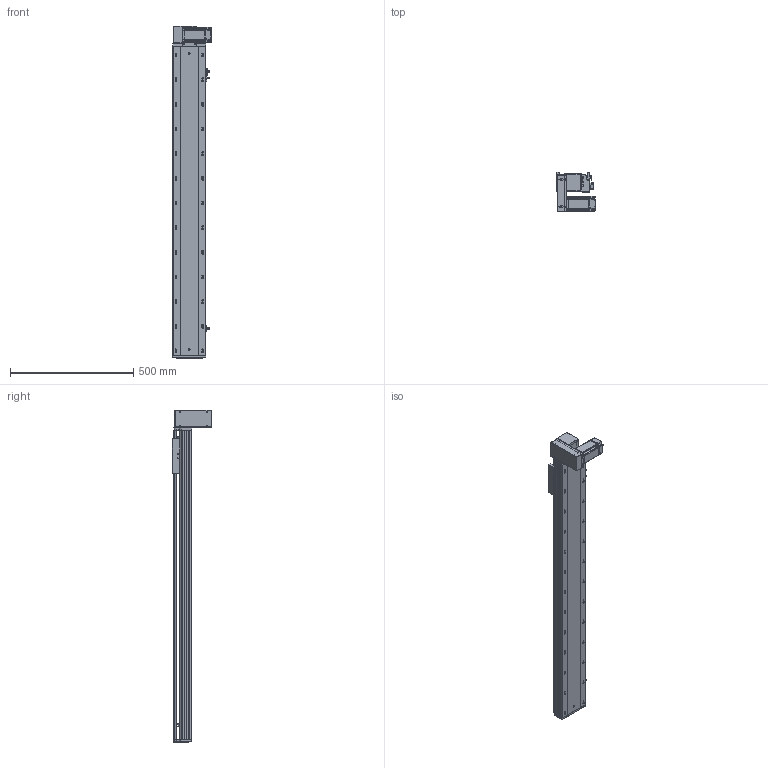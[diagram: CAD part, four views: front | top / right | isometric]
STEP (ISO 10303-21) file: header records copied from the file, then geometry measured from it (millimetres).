
FILE_DESCRIPTION (( 'STEP AP203' ), '1' );
FILE_NAME ('RY140-T-300-DL.SLDASM_1000.step', '2021-03-01T06:06:25', ( '盈信电脑' ), ( '东莞市道滘镇水果街19号' ), 'SwSTEP 2.0', 'SolidWorks 2012', '' );
FILE_SCHEMA (( 'CONFIG_CONTROL_DESIGN' ));
Length unit declared in the file: millimetre
Products named in the file (18): RY140-T翋肮謫裔啣; RY140-T-300-DL.SLDASM_1000; 滅袉蝶18-10; 侂狟400W侜督萇儂; RY120-T主同步轮轴承压盖; RY140-T萇儂欶; RY120-T蹟翐M4; RY120-T肮祭湍揤踡輸1; RY140-T翋肮祭謫盓傅釱; RY140-T萇儂假蚾啣; 15; 覜茼ん672; RY140綴裔啣; RY120-T肮祭湍揤踡輸2; RY120外置感应片(140共用）; RY140肮祭謫臏賑輸; RY140-T-300-DL倰第菁釱_1000; RY140-T-300-DL倰第奻裔啣_1000
Assembly tree (23 placements, depth 3):
  RY140-T-300-DL.SLDASM_1000
    RY140-T-300-DL倰第菁釱_1000
    RY140肮祭謫臏賑輸
    RY140-T-300-DL倰第奻裔啣_1000
    RY140綴裔啣
    覜茼ん672  x3
    RY120外置感应片(140共用）
    RY120-T肮祭湍揤踡輸2
    RY120-T肮祭湍揤踡輸1
    RY140-T翋肮祭謫盓傅釱
    RY140-T萇儂假蚾啣
    侂狟400W侜督萇儂
      15
    RY120-T主同步轮轴承压盖
    RY120-T蹟翐M4  x4
    RY140-T萇儂欶
    滅袉蝶18-10  x2
    RY140-T翋肮謫裔啣
Bounding box: 157 x 158.5 x 1346 mm (x, y, z)
Volume: 3987512 mm3; surface area: 1525927 mm2
Topology: 22 solids, 22 shells, 2782 faces, 7702 edges, 4948 vertices
Faces by surface type: plane 1389, cylinder 1071, cone 222, bspline 100
Entity records: 89096 total; most frequent: CARTESIAN_POINT 21939, ORIENTED_EDGE 13884, DIRECTION 13100, EDGE_CURVE 6942, VERTEX_POINT 4547, AXIS2_PLACEMENT_3D 4381, LINE 4338, VECTOR 4338
